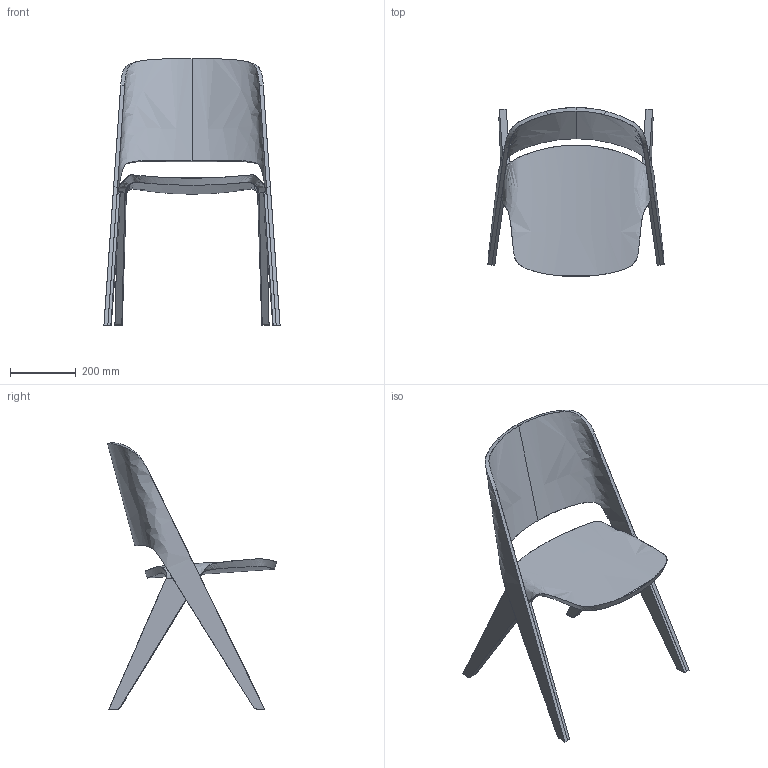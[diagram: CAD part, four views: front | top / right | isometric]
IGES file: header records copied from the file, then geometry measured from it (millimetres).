
Start section: SolidWorks IGES file using analytic representation for surfaces
Global section: file name: G:\My Drive\POIAT products\Tuotekehitys\POIAT (ajantasa) tuotteet mallikansio\Lavitta Chair\3-D\Lavitta Chair\Lavitta Chair.igs; native system: Rhinoceros ( May 22 2017 ); preprocessor: Trout Lake IGES 012 May 22 2017; date: 200610.102722; units: millimetre
Bounding box: 537.32 x 515.16 x 814.16 mm (x, y, z)
Surface area: 1103144.6 mm2 (no closed solid volume)
Topology: 0 solids, 0 shells, 100 faces, 2554 edges, 2544 vertices
Faces by surface type: bspline 100
